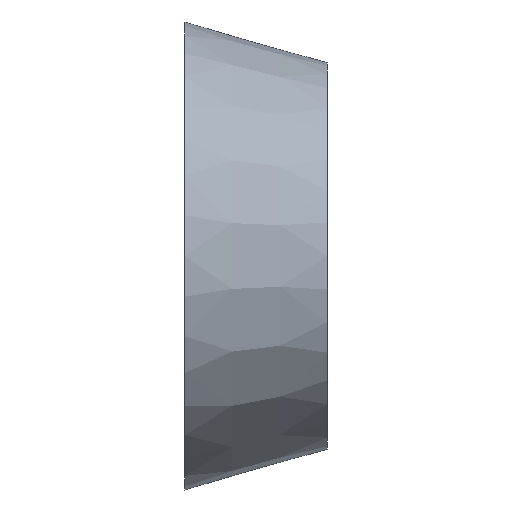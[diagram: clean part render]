
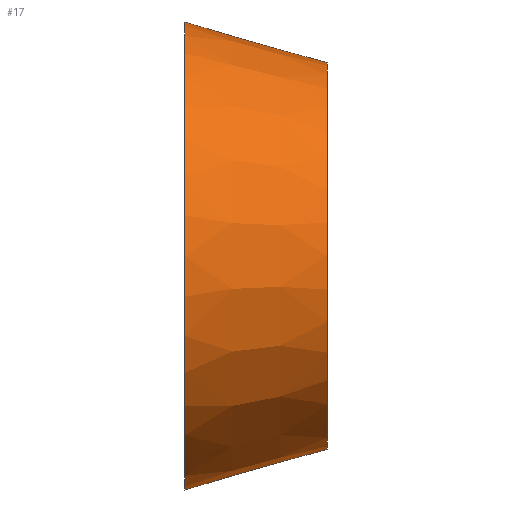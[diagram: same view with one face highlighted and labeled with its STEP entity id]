
A CAD part, front view. The second image highlights one B-rep face of the part: STEP entity #17.
In plain terms, the highlighted conical face has half-angle 15.945 degrees and reference radius 11.5 mm.
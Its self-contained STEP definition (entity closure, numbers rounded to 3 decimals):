
#17 = ADVANCED_FACE('',(#18),#31,.T.);
#18 = FACE_BOUND('',#19,.T.);
#19 = EDGE_LOOP('',(#20,#54,#74,#101));
#20 = ORIENTED_EDGE('',*,*,#21,.T.);
#21 = EDGE_CURVE('',#22,#22,#24,.T.);
#22 = VERTEX_POINT('',#23);
#23 = CARTESIAN_POINT('',(0.,11.5,0.));
#24 = SURFACE_CURVE('',#25,(#30,#42),.PCURVE_S1.);
#25 = CIRCLE('',#26,11.5);
#26 = AXIS2_PLACEMENT_3D('',#27,#28,#29);
#27 = CARTESIAN_POINT('',(0.,0.,0.));
#28 = DIRECTION('',(1.,0.,0.));
#29 = DIRECTION('',(0.,1.,0.));
#30 = PCURVE('',#31,#36);
#31 = CONICAL_SURFACE('',#32,11.5,0.278);
#32 = AXIS2_PLACEMENT_3D('',#33,#34,#35);
#33 = CARTESIAN_POINT('',(0.,0.,0.));
#34 = DIRECTION('',(-1.,-0.,-0.));
#35 = DIRECTION('',(0.,1.,0.));
#36 = DEFINITIONAL_REPRESENTATION('',(#37),#41);
#37 = LINE('',#38,#39);
#38 = CARTESIAN_POINT('',(-0.,-0.));
#39 = VECTOR('',#40,1.);
#40 = DIRECTION('',(-1.,-0.));
#41 = ( GEOMETRIC_REPRESENTATION_CONTEXT(2) 
PARAMETRIC_REPRESENTATION_CONTEXT() REPRESENTATION_CONTEXT('2D SPACE',''
  ) );
#42 = PCURVE('',#43,#48);
#43 = PLANE('',#44);
#44 = AXIS2_PLACEMENT_3D('',#45,#46,#47);
#45 = CARTESIAN_POINT('',(0.,0.,0.));
#46 = DIRECTION('',(1.,0.,0.));
#47 = DIRECTION('',(0.,1.,0.));
#48 = DEFINITIONAL_REPRESENTATION('',(#49),#53);
#49 = CIRCLE('',#50,11.5);
#50 = AXIS2_PLACEMENT_2D('',#51,#52);
#51 = CARTESIAN_POINT('',(0.,0.));
#52 = DIRECTION('',(1.,0.));
#53 = ( GEOMETRIC_REPRESENTATION_CONTEXT(2) 
PARAMETRIC_REPRESENTATION_CONTEXT() REPRESENTATION_CONTEXT('2D SPACE',''
  ) );
#54 = ORIENTED_EDGE('',*,*,#55,.T.);
#55 = EDGE_CURVE('',#22,#56,#58,.T.);
#56 = VERTEX_POINT('',#57);
#57 = CARTESIAN_POINT('',(7.,9.5,0.));
#58 = SEAM_CURVE('',#59,(#62,#68),.PCURVE_S1.);
#59 = B_SPLINE_CURVE_WITH_KNOTS('',1,(#60,#61),.UNSPECIFIED.,.F.,.F.,(2,
    2),(0.,1.),.PIECEWISE_BEZIER_KNOTS.);
#60 = CARTESIAN_POINT('',(0.,11.5,0.));
#61 = CARTESIAN_POINT('',(7.,9.5,0.));
#62 = PCURVE('',#31,#63);
#63 = DEFINITIONAL_REPRESENTATION('',(#64),#67);
#64 = B_SPLINE_CURVE_WITH_KNOTS('',1,(#65,#66),.UNSPECIFIED.,.F.,.F.,(2,
    2),(0.,1.),.PIECEWISE_BEZIER_KNOTS.);
#65 = CARTESIAN_POINT('',(-6.283,0.));
#66 = CARTESIAN_POINT('',(-6.283,-7.));
#67 = ( GEOMETRIC_REPRESENTATION_CONTEXT(2) 
PARAMETRIC_REPRESENTATION_CONTEXT() REPRESENTATION_CONTEXT('2D SPACE',''
  ) );
#68 = PCURVE('',#31,#69);
#69 = DEFINITIONAL_REPRESENTATION('',(#70),#73);
#70 = B_SPLINE_CURVE_WITH_KNOTS('',1,(#71,#72),.UNSPECIFIED.,.F.,.F.,(2,
    2),(0.,1.),.PIECEWISE_BEZIER_KNOTS.);
#71 = CARTESIAN_POINT('',(0.,0.));
#72 = CARTESIAN_POINT('',(0.,-7.));
#73 = ( GEOMETRIC_REPRESENTATION_CONTEXT(2) 
PARAMETRIC_REPRESENTATION_CONTEXT() REPRESENTATION_CONTEXT('2D SPACE',''
  ) );
#74 = ORIENTED_EDGE('',*,*,#75,.F.);
#75 = EDGE_CURVE('',#56,#56,#76,.T.);
#76 = SURFACE_CURVE('',#77,(#82,#89),.PCURVE_S1.);
#77 = CIRCLE('',#78,9.5);
#78 = AXIS2_PLACEMENT_3D('',#79,#80,#81);
#79 = CARTESIAN_POINT('',(7.,0.,0.));
#80 = DIRECTION('',(1.,0.,0.));
#81 = DIRECTION('',(0.,1.,0.));
#82 = PCURVE('',#31,#83);
#83 = DEFINITIONAL_REPRESENTATION('',(#84),#88);
#84 = LINE('',#85,#86);
#85 = CARTESIAN_POINT('',(-0.,-7.));
#86 = VECTOR('',#87,1.);
#87 = DIRECTION('',(-1.,-0.));
#88 = ( GEOMETRIC_REPRESENTATION_CONTEXT(2) 
PARAMETRIC_REPRESENTATION_CONTEXT() REPRESENTATION_CONTEXT('2D SPACE',''
  ) );
#89 = PCURVE('',#90,#95);
#90 = PLANE('',#91);
#91 = AXIS2_PLACEMENT_3D('',#92,#93,#94);
#92 = CARTESIAN_POINT('',(7.,0.,0.));
#93 = DIRECTION('',(1.,0.,0.));
#94 = DIRECTION('',(0.,1.,0.));
#95 = DEFINITIONAL_REPRESENTATION('',(#96),#100);
#96 = CIRCLE('',#97,9.5);
#97 = AXIS2_PLACEMENT_2D('',#98,#99);
#98 = CARTESIAN_POINT('',(0.,0.));
#99 = DIRECTION('',(1.,0.));
#100 = ( GEOMETRIC_REPRESENTATION_CONTEXT(2) 
PARAMETRIC_REPRESENTATION_CONTEXT() REPRESENTATION_CONTEXT('2D SPACE',''
  ) );
#101 = ORIENTED_EDGE('',*,*,#55,.F.);
